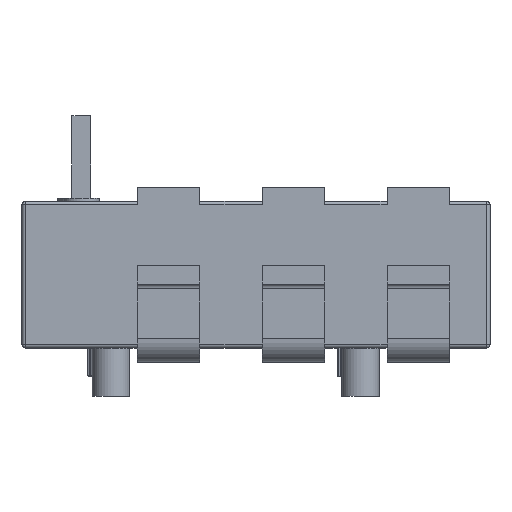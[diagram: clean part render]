
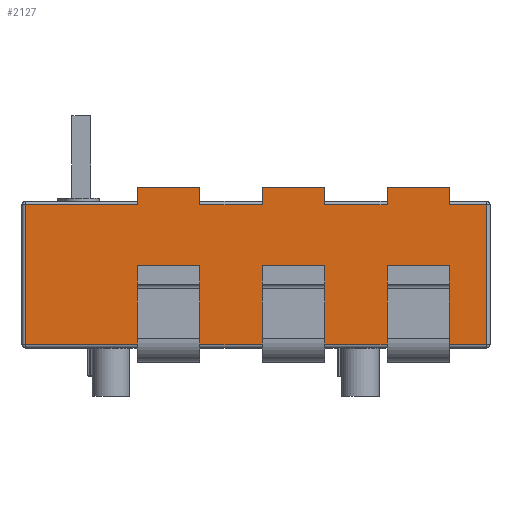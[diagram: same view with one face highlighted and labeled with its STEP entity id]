
A CAD part, front view. The second image highlights one B-rep face of the part: STEP entity #2127.
In plain terms, the highlighted planar face has unit normal (0, -1, 0).
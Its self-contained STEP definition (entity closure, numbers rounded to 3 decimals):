
#583=FACE_OUTER_BOUND('',#2957,.T.);
#735=PLANE('',#7738);
#766=LINE('',#9815,#1262);
#767=LINE('',#9820,#1263);
#774=LINE('',#9839,#1270);
#798=LINE('',#9914,#1294);
#800=LINE('',#9921,#1296);
#803=LINE('',#9928,#1299);
#826=LINE('',#10007,#1322);
#828=LINE('',#10014,#1324);
#833=LINE('',#10023,#1329);
#863=LINE('',#10114,#1359);
#866=LINE('',#10120,#1362);
#869=LINE('',#10130,#1365);
#897=LINE('',#10221,#1393);
#902=LINE('',#10233,#1398);
#903=LINE('',#10237,#1399);
#928=LINE('',#10319,#1424);
#933=LINE('',#10330,#1429);
#935=LINE('',#10336,#1431);
#1182=LINE('',#14733,#1678);
#1188=LINE('',#14772,#1684);
#1189=LINE('',#14774,#1685);
#1212=LINE('',#14835,#1708);
#1214=LINE('',#14838,#1710);
#1218=LINE('',#14845,#1714);
#1219=LINE('',#14846,#1715);
#1220=LINE('',#14847,#1716);
#1221=LINE('',#14848,#1717);
#1222=LINE('',#14849,#1718);
#1262=VECTOR('',#7827,1.);
#1263=VECTOR('',#7832,1.);
#1270=VECTOR('',#7847,1.);
#1294=VECTOR('',#7921,1.);
#1296=VECTOR('',#7927,1.);
#1299=VECTOR('',#7934,1.);
#1322=VECTOR('',#8007,1.);
#1324=VECTOR('',#8013,1.);
#1329=VECTOR('',#8022,1.);
#1359=VECTOR('',#8112,1.);
#1362=VECTOR('',#8117,1.);
#1365=VECTOR('',#8126,1.);
#1393=VECTOR('',#8212,1.);
#1398=VECTOR('',#8221,1.);
#1399=VECTOR('',#8226,1.);
#1424=VECTOR('',#8305,1.);
#1429=VECTOR('',#8314,1.);
#1431=VECTOR('',#8320,1.);
#1678=VECTOR('',#9519,1.);
#1684=VECTOR('',#9567,1.);
#1685=VECTOR('',#9570,1.);
#1708=VECTOR('',#9669,1.);
#1710=VECTOR('',#9673,1.);
#1714=VECTOR('',#9683,1.);
#1715=VECTOR('',#9684,1.);
#1716=VECTOR('',#9685,1.);
#1717=VECTOR('',#9686,1.);
#1718=VECTOR('',#9687,1.);
#2127=ADVANCED_FACE('',(#583),#735,.F.);
#2957=EDGE_LOOP('',(#4844,#4845,#4846,#4847,#4848,#4849,#4850,#4851,#4852,
#4853,#4854,#4855,#4856,#4857,#4858,#4859,#4860,#4861,#4862,#4863,#4864,
#4865,#4866,#4867,#4868,#4869,#4870,#4871));
#4844=ORIENTED_EDGE('',*,*,#6608,.T.);
#4845=ORIENTED_EDGE('',*,*,#5676,.T.);
#4846=ORIENTED_EDGE('',*,*,#5664,.F.);
#4847=ORIENTED_EDGE('',*,*,#5666,.F.);
#4848=ORIENTED_EDGE('',*,*,#6609,.T.);
#4849=ORIENTED_EDGE('',*,*,#5719,.T.);
#4850=ORIENTED_EDGE('',*,*,#5712,.T.);
#4851=ORIENTED_EDGE('',*,*,#5715,.F.);
#4852=ORIENTED_EDGE('',*,*,#6610,.T.);
#4853=ORIENTED_EDGE('',*,*,#5765,.T.);
#4854=ORIENTED_EDGE('',*,*,#5756,.T.);
#4855=ORIENTED_EDGE('',*,*,#5759,.F.);
#4856=ORIENTED_EDGE('',*,*,#6559,.T.);
#4857=ORIENTED_EDGE('',*,*,#6578,.T.);
#4858=ORIENTED_EDGE('',*,*,#6604,.T.);
#4859=ORIENTED_EDGE('',*,*,#5914,.F.);
#4860=ORIENTED_EDGE('',*,*,#5917,.F.);
#4861=ORIENTED_EDGE('',*,*,#5908,.F.);
#4862=ORIENTED_EDGE('',*,*,#6611,.T.);
#4863=ORIENTED_EDGE('',*,*,#5867,.T.);
#4864=ORIENTED_EDGE('',*,*,#5869,.T.);
#4865=ORIENTED_EDGE('',*,*,#5861,.T.);
#4866=ORIENTED_EDGE('',*,*,#6612,.T.);
#4867=ORIENTED_EDGE('',*,*,#5817,.T.);
#4868=ORIENTED_EDGE('',*,*,#5809,.T.);
#4869=ORIENTED_EDGE('',*,*,#5812,.T.);
#4870=ORIENTED_EDGE('',*,*,#6602,.T.);
#4871=ORIENTED_EDGE('',*,*,#6579,.T.);
#5000=VERTEX_POINT('',#9812);
#5001=VERTEX_POINT('',#9814);
#5002=VERTEX_POINT('',#9818);
#5008=VERTEX_POINT('',#9831);
#5036=VERTEX_POINT('',#9911);
#5037=VERTEX_POINT('',#9913);
#5040=VERTEX_POINT('',#9920);
#5043=VERTEX_POINT('',#9929);
#5072=VERTEX_POINT('',#10004);
#5073=VERTEX_POINT('',#10006);
#5076=VERTEX_POINT('',#10013);
#5079=VERTEX_POINT('',#10024);
#5110=VERTEX_POINT('',#10115);
#5111=VERTEX_POINT('',#10116);
#5112=VERTEX_POINT('',#10121);
#5116=VERTEX_POINT('',#10131);
#5149=VERTEX_POINT('',#10220);
#5150=VERTEX_POINT('',#10222);
#5154=VERTEX_POINT('',#10232);
#5155=VERTEX_POINT('',#10234);
#5185=VERTEX_POINT('',#10318);
#5186=VERTEX_POINT('',#10320);
#5189=VERTEX_POINT('',#10329);
#5190=VERTEX_POINT('',#10331);
#5614=VERTEX_POINT('',#14721);
#5617=VERTEX_POINT('',#14732);
#5619=VERTEX_POINT('',#14739);
#5626=VERTEX_POINT('',#14758);
#5664=EDGE_CURVE('',#5001,#5000,#766,.T.);
#5666=EDGE_CURVE('',#5002,#5001,#767,.T.);
#5676=EDGE_CURVE('',#5008,#5000,#774,.T.);
#5712=EDGE_CURVE('',#5036,#5037,#798,.T.);
#5715=EDGE_CURVE('',#5040,#5037,#800,.T.);
#5719=EDGE_CURVE('',#5043,#5036,#803,.T.);
#5756=EDGE_CURVE('',#5072,#5073,#826,.T.);
#5759=EDGE_CURVE('',#5076,#5073,#828,.T.);
#5765=EDGE_CURVE('',#5079,#5072,#833,.T.);
#5809=EDGE_CURVE('',#5110,#5111,#863,.T.);
#5812=EDGE_CURVE('',#5111,#5112,#866,.T.);
#5817=EDGE_CURVE('',#5116,#5110,#869,.T.);
#5861=EDGE_CURVE('',#5150,#5149,#897,.T.);
#5867=EDGE_CURVE('',#5155,#5154,#902,.T.);
#5869=EDGE_CURVE('',#5154,#5150,#903,.T.);
#5908=EDGE_CURVE('',#5185,#5186,#928,.T.);
#5914=EDGE_CURVE('',#5189,#5190,#933,.T.);
#5917=EDGE_CURVE('',#5186,#5189,#935,.T.);
#6559=EDGE_CURVE('',#5076,#5617,#1182,.T.);
#6578=EDGE_CURVE('',#5617,#5619,#1188,.T.);
#6579=EDGE_CURVE('',#5626,#5614,#1189,.T.);
#6602=EDGE_CURVE('',#5112,#5626,#1212,.T.);
#6604=EDGE_CURVE('',#5619,#5190,#1214,.T.);
#6608=EDGE_CURVE('',#5614,#5008,#1218,.T.);
#6609=EDGE_CURVE('',#5002,#5043,#1219,.T.);
#6610=EDGE_CURVE('',#5040,#5079,#1220,.T.);
#6611=EDGE_CURVE('',#5185,#5155,#1221,.T.);
#6612=EDGE_CURVE('',#5149,#5116,#1222,.T.);
#7738=AXIS2_PLACEMENT_3D('',#14850,#9688,#9689);
#7827=DIRECTION('',(1.,0.,0.));
#7832=DIRECTION('',(0.,0.,1.));
#7847=DIRECTION('',(0.,0.,1.));
#7921=DIRECTION('',(-1.,0.,0.));
#7927=DIRECTION('',(0.,0.,1.));
#7934=DIRECTION('',(0.,0.,1.));
#8007=DIRECTION('',(-1.,0.,0.));
#8013=DIRECTION('',(0.,0.,1.));
#8022=DIRECTION('',(0.,0.,1.));
#8112=DIRECTION('',(1.,0.,0.));
#8117=DIRECTION('',(0.,0.,-1.));
#8126=DIRECTION('',(0.,0.,1.));
#8212=DIRECTION('',(0.,0.,-1.));
#8221=DIRECTION('',(0.,0.,1.));
#8226=DIRECTION('',(1.,0.,0.));
#8305=DIRECTION('',(0.,0.,1.));
#8314=DIRECTION('',(0.,0.,-1.));
#8320=DIRECTION('',(-1.,0.,0.));
#9519=DIRECTION('',(-1.,0.,0.));
#9567=DIRECTION('',(0.,0.,-1.));
#9570=DIRECTION('',(0.,0.,1.));
#9669=DIRECTION('',(1.,0.,0.));
#9673=DIRECTION('',(1.,0.,0.));
#9683=DIRECTION('',(-1.,0.,0.));
#9684=DIRECTION('',(-1.,0.,0.));
#9685=DIRECTION('',(-1.,0.,0.));
#9686=DIRECTION('',(1.,0.,0.));
#9687=DIRECTION('',(1.,0.,0.));
#9688=DIRECTION('',(0.,1.,0.));
#9689=DIRECTION('',(0.,0.,1.));
#9812=CARTESIAN_POINT('',(124.,-75.,103.));
#9814=CARTESIAN_POINT('',(84.,-75.,103.));
#9815=CARTESIAN_POINT('',(124.,-75.,103.));
#9818=CARTESIAN_POINT('',(84.,-75.,92.));
#9820=CARTESIAN_POINT('',(84.,-75.,103.));
#9831=CARTESIAN_POINT('',(124.,-75.,92.));
#9839=CARTESIAN_POINT('',(124.,-75.,103.));
#9911=CARTESIAN_POINT('',(44.,-75.,103.));
#9913=CARTESIAN_POINT('',(4.,-75.,103.));
#9914=CARTESIAN_POINT('',(4.,-75.,103.));
#9920=CARTESIAN_POINT('',(4.,-75.,92.));
#9921=CARTESIAN_POINT('',(4.,-75.,103.));
#9928=CARTESIAN_POINT('',(44.,-75.,103.));
#9929=CARTESIAN_POINT('',(44.,-75.,92.));
#10004=CARTESIAN_POINT('',(-36.,-75.,103.));
#10006=CARTESIAN_POINT('',(-76.,-75.,103.));
#10007=CARTESIAN_POINT('',(-76.,-75.,103.));
#10013=CARTESIAN_POINT('',(-76.,-75.,92.));
#10014=CARTESIAN_POINT('',(-76.,-75.,103.));
#10023=CARTESIAN_POINT('',(-36.,-75.,103.));
#10024=CARTESIAN_POINT('',(-36.,-75.,92.));
#10114=CARTESIAN_POINT('',(-150.,-75.,3.));
#10115=CARTESIAN_POINT('',(84.,-75.,3.));
#10116=CARTESIAN_POINT('',(124.,-75.,3.));
#10120=CARTESIAN_POINT('',(124.,-75.,94.));
#10121=CARTESIAN_POINT('',(124.,-75.,2.));
#10130=CARTESIAN_POINT('',(84.,-75.,94.));
#10131=CARTESIAN_POINT('',(84.,-75.,2.));
#10220=CARTESIAN_POINT('',(44.,-75.,2.));
#10221=CARTESIAN_POINT('',(44.,-75.,94.));
#10222=CARTESIAN_POINT('',(44.,-75.,3.));
#10232=CARTESIAN_POINT('',(4.,-75.,3.));
#10233=CARTESIAN_POINT('',(4.,-75.,94.));
#10234=CARTESIAN_POINT('',(4.,-75.,2.));
#10237=CARTESIAN_POINT('',(-150.,-75.,3.));
#10318=CARTESIAN_POINT('',(-36.,-75.,2.));
#10319=CARTESIAN_POINT('',(-36.,-75.,94.));
#10320=CARTESIAN_POINT('',(-36.,-75.,3.));
#10329=CARTESIAN_POINT('',(-76.,-75.,3.));
#10330=CARTESIAN_POINT('',(-76.,-75.,94.));
#10331=CARTESIAN_POINT('',(-76.,-75.,2.));
#10336=CARTESIAN_POINT('',(-150.,-75.,3.));
#14721=CARTESIAN_POINT('',(148.,-75.,92.));
#14732=CARTESIAN_POINT('',(-148.,-75.,92.));
#14733=CARTESIAN_POINT('',(-148.,-75.,92.));
#14739=CARTESIAN_POINT('',(-148.,-75.,2.));
#14758=CARTESIAN_POINT('',(148.,-75.,2.));
#14772=CARTESIAN_POINT('',(-148.,-75.,94.));
#14774=CARTESIAN_POINT('',(148.,-75.,94.));
#14835=CARTESIAN_POINT('',(-150.,-75.,2.));
#14838=CARTESIAN_POINT('',(-150.,-75.,2.));
#14845=CARTESIAN_POINT('',(-148.,-75.,92.));
#14846=CARTESIAN_POINT('',(-148.,-75.,92.));
#14847=CARTESIAN_POINT('',(-148.,-75.,92.));
#14848=CARTESIAN_POINT('',(-150.,-75.,2.));
#14849=CARTESIAN_POINT('',(-150.,-75.,2.));
#14850=CARTESIAN_POINT('',(-150.,-75.,94.));
